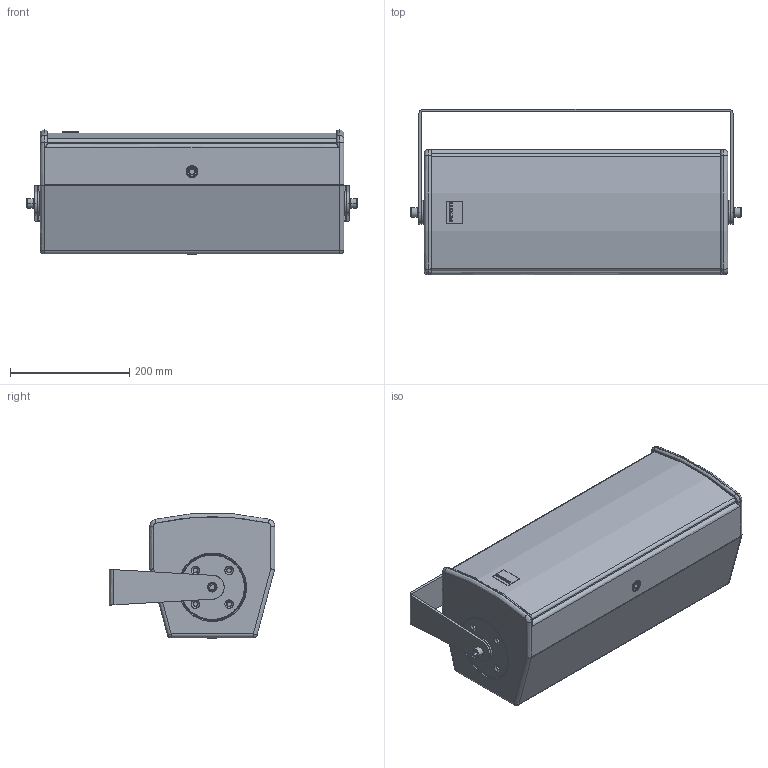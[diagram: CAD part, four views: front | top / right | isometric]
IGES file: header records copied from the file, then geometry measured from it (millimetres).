
Start section: SolidWorks IGES file using analytic representation for surfaces
Global section: file name: C:\Dokumente und Einstellungen\PC_Fabian\Desktop\3d_Dateien_Homepage\A-Serie\SEEBURG_A2_Bracket-hor.IGS; native system: SolidWorks 2009; preprocessor: SolidWorks 2009; author: PC_Fabian; date: 120927.152554; units: millimetre
Bounding box: 555.07 x 278 x 209.8 mm (x, y, z)
Surface area: 1224301.9 mm2 (no closed solid volume)
Topology: 0 solids, 0 shells, 515 faces, 6613 edges, 6611 vertices
Faces by surface type: revolution 266, bspline 249
